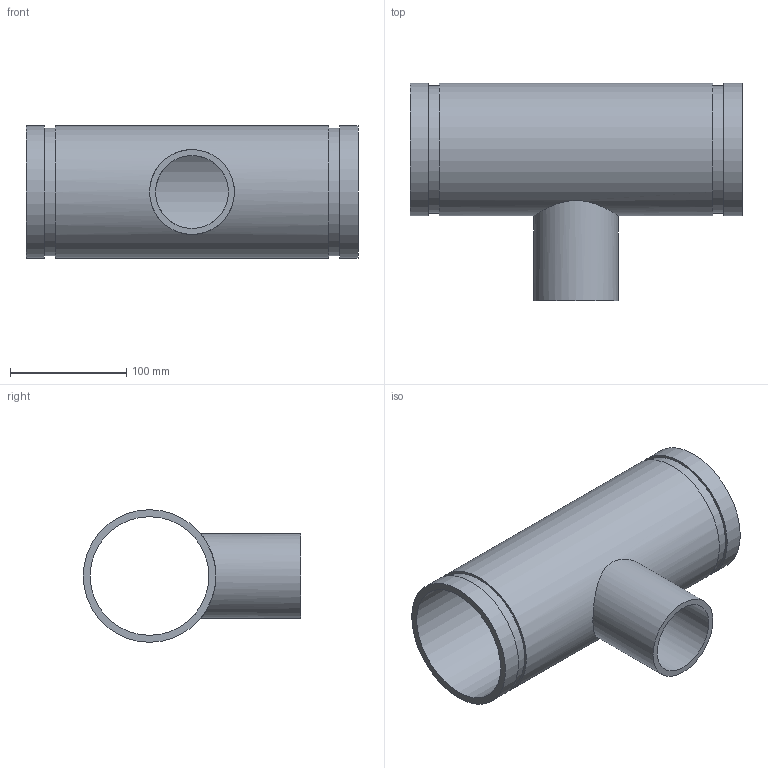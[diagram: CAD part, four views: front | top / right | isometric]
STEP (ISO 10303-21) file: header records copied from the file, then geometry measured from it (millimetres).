
FILE_DESCRIPTION(/* description */ ('VIC REDUCING TEE No 29T FFT (OGSxMPT)','CAx-IF Rec.Pracs.---Representation and Presentation of Product Manufacturing Information (PMI)---4.0---2014-10-13'),/* implementation_level */ '2;1');
FILE_NAME(/* name */ 'C:\Users\kkamble\AppData\Roaming\Autodesk\ApplicationPlugins\Back Up\Victaulic_IPS_Tee Reducing_No 29T FFT (OGSxMPT)\Victaulic_IPS_Tee Reducing_No 29T FFT (OGSxMPT)_04.0x02.5 (100x65).stp',/* time_stamp */ '2020-09-16T22:38:03+05:00',/* author */ ('CORINNE GRAY'),/* organization */ ('Victaulic'),/* preprocessor_version */ 'ST-DEVELOPER v17.2',/* originating_system */ 'Autodesk Inventor 2019',/* authorisation */ '');
FILE_SCHEMA (('AP242_MANAGED_MODEL_BASED_3D_ENGINEERING_MIM_LF { 1 0 10303 442 1 1 4 }'));
Length unit declared in the file: inch
Products named in the file (1): 29 FFT-04.0x02.5
Bounding box: 286 x 187.45 x 114.3 mm (x, y, z)
Volume: 638467.3 mm3; surface area: 229663.5 mm2
Topology: 1 solids, 1 shells, 15 faces, 32 edges, 24 vertices
Faces by surface type: cylinder 8, plane 7
Full cylindrical faces by diameter (mm): 62.713 x1, 73.025 x1, 102.26 x1, 110.084 x2, 114.3 x3
Entity records: 709 total; most frequent: CARTESIAN_POINT 221, DIRECTION 106, ORIENTED_EDGE 64, AXIS2_PLACEMENT_3D 49, EDGE_CURVE 32, EDGE_LOOP 24, VERTEX_POINT 24, CIRCLE 20
